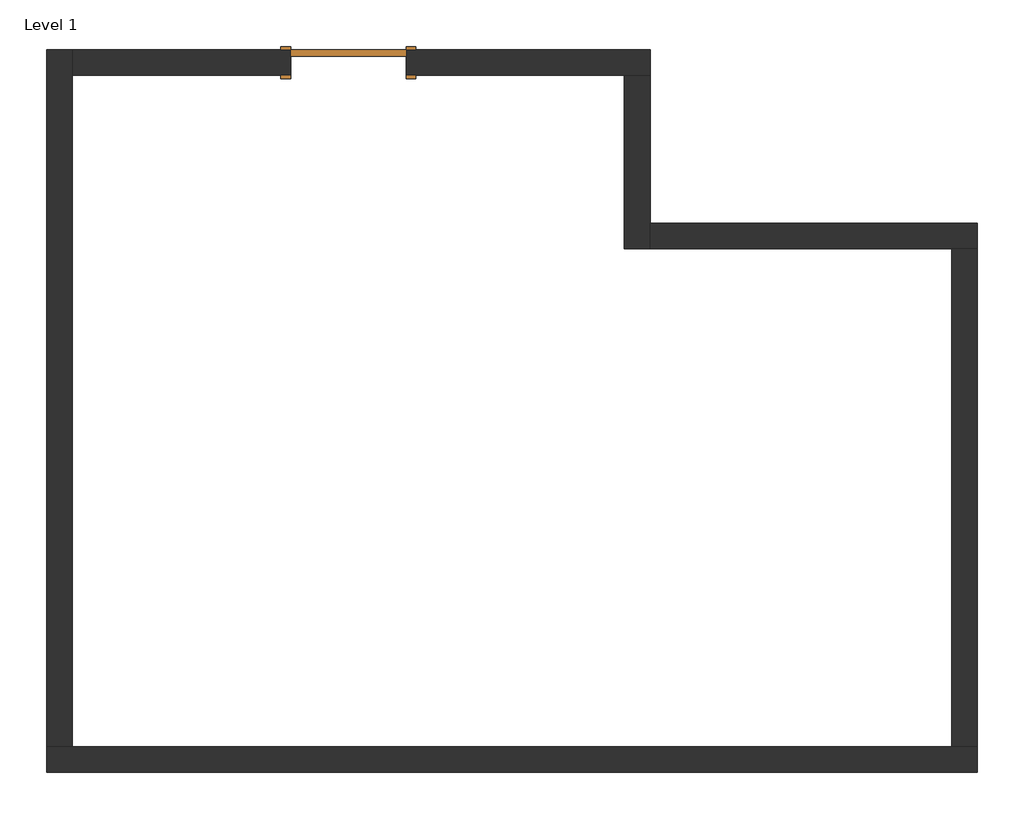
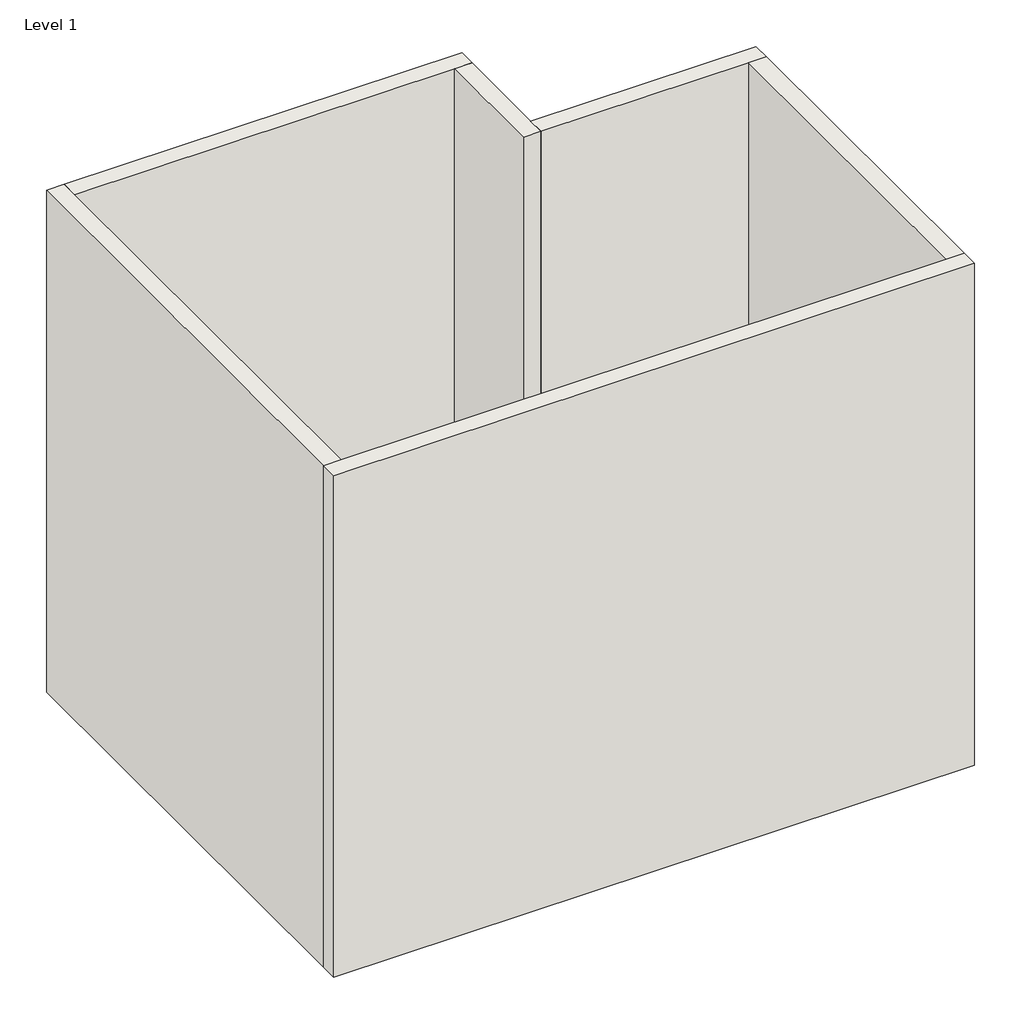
# One storey: 6 walls, 1 door.
"""IFC4 building model written with IfcOpenShell, lengths in millimetres."""

from ifc_helpers import new_model, si_unit, origin, origin_with_axes, place, context, project, spatial, polyline, outline, extrude, faceted_brep, transform, mapped, element, save
from components import door_54dd4da4

model = new_model("IFC4")

# Units and contexts
model_context = context("Model", 3, world=origin())
ifc_project = project(units=[si_unit("LENGTHUNIT", "METRE", prefix="MILLI")], contexts=[model_context])

# Site, building, storey
site = spatial("IfcSite", under=ifc_project)
building = spatial("IfcBuilding", under=site)
storey = spatial("IfcBuildingStorey", under=building, Name="Level 1", Elevation=0.0)

# Door
placement = place(None, origin())
door_shape = door_54dd4da4(model_context)
element("IfcDoor", 1, ObjectType="Single-Flush : 36\" x 84\"", at=placement, inside=storey, context=model_context, shape_type="MappedRepresentation", body=[
    mapped(door_shape, transform((-10047.3431382, 12194.1029451, 0.0), x_axis=(1.0, 0.0, 0.0), y_axis=(0.0, 1.0, 0.0), z_axis=(0.0, 0.0, 1.0))),
])

# Walls
element("IfcWall", 2, ObjectType="Generic - 8\"", at=placement, inside=storey, context=model_context, shape_type="Brep", body=[
    faceted_brep([(-12231.7431382, 6781.9300841, 0.0), (-12231.7431382, 12092.5029451, 0.0), (-12231.7431382, 12295.7029451, 0.0), (-12231.7431382, 12295.7029451, 6096.0), (-12231.7431382, 12092.5029451, 6096.0), (-12231.7431382, 6781.9300841, 6096.0), (-12434.9431382, 6781.9300841, 0.0), (-12434.9431382, 6781.9300841, 6096.0), (-12434.9431382, 12295.7029451, 6096.0), (-12434.9431382, 12295.7029451, 0.0)], [[[0, 1, 2, 3, 4, 5]], [[6, 7, 8, 9]], [[2, 1, 0, 6, 9]], [[5, 4, 3, 8, 7]], [[3, 2, 9, 8]], [[0, 5, 7, 6]]]),
])
element("IfcWall", 3, ObjectType="Generic - 8\"", at=placement, inside=storey, context=model_context, shape_type="Brep", body=[
    faceted_brep([(-9590.1431382, 12092.5029451, 2133.6), (-9590.1431382, 12092.5029451, 0.0), (-7862.9431382, 12092.5029451, 0.0), (-7659.7431382, 12092.5029451, 0.0), (-7659.7431382, 12092.5029451, 6096.0), (-7862.9431382, 12092.5029451, 6096.0), (-12231.7431382, 12092.5029451, 6096.0), (-12231.7431382, 12092.5029451, 0.0), (-10504.5431382, 12092.5029451, 0.0), (-10504.5431382, 12092.5029451, 2133.6), (-7659.7431382, 12295.7029451, 0.0), (-9590.1431382, 12295.7029451, 0.0), (-9590.1431382, 12295.7029451, 2133.6), (-10504.5431382, 12295.7029451, 2133.6), (-10504.5431382, 12295.7029451, 0.0), (-12231.7431382, 12295.7029451, 0.0), (-12231.7431382, 12295.7029451, 6096.0), (-7659.7431382, 12295.7029451, 6096.0)], [[[0, 1, 2, 3, 4, 5, 6, 7, 8, 9]], [[10, 11, 12, 13, 14, 15, 16, 17]], [[8, 7, 15, 14]], [[3, 2, 1, 11, 10]], [[6, 5, 4, 17, 16]], [[7, 6, 16, 15]], [[4, 3, 10, 17]], [[12, 11, 1, 0]], [[13, 12, 0, 9]], [[14, 13, 9, 8]]]),
])
element("IfcWall", 4, ObjectType="Generic - 8\"", at=placement, inside=storey, context=model_context, shape_type="Brep", body=[
    faceted_brep([(-7862.9431382, 12092.5029451, 0.0), (-7862.9431382, 10720.9029451, 0.0), (-7862.9431382, 10720.9029451, 6096.0), (-7862.9431382, 12092.5029451, 6096.0), (-7659.7431382, 12092.5029451, 0.0), (-7659.7431382, 12092.5029451, 6096.0), (-7659.7431382, 10924.1029451, 6096.0), (-7659.7431382, 10720.9029451, 6096.0), (-7659.7431382, 10720.9029451, 0.0), (-7659.7431382, 10924.1029451, 0.0)], [[[0, 1, 2, 3]], [[4, 5, 6, 7, 8, 9]], [[1, 0, 4, 9, 8]], [[3, 2, 7, 6, 5]], [[0, 3, 5, 4]], [[2, 1, 8, 7]]]),
])
element("IfcWall", 5, ObjectType="Generic - 8\"", at=placement, inside=storey, context=model_context, shape_type="Brep", body=[
    faceted_brep([(-7659.7431382, 10720.9029451, 0.0), (-5272.1431382, 10720.9029451, 0.0), (-5068.9431382, 10720.9029451, 0.0), (-5068.9431382, 10720.9029451, 6096.0), (-5272.1431382, 10720.9029451, 6096.0), (-7659.7431382, 10720.9029451, 6096.0), (-7659.7431382, 10924.1029451, 0.0), (-7659.7431382, 10924.1029451, 6096.0), (-5068.9431382, 10924.1029451, 6096.0), (-5068.9431382, 10924.1029451, 0.0)], [[[0, 1, 2, 3, 4, 5]], [[6, 7, 8, 9]], [[2, 1, 0, 6, 9]], [[5, 4, 3, 8, 7]], [[0, 5, 7, 6]], [[3, 2, 9, 8]]]),
])
element("IfcWall", 6, ObjectType="Generic - 8\"", at=placement, inside=storey, context=model_context, shape_type="SweptSolid", body=[
    extrude(outline(polyline([(-5272.1431382, 6781.9300841), (-5272.1431382, 10720.9029451), (-5068.9431382, 10720.9029451), (-5068.9431382, 6781.9300841), (-5272.1431382, 6781.9300841)])), origin_with_axes(), (0.0, 0.0, 1.0), 6096.0),
])
element("IfcWall", 7, ObjectType="Generic - 8\"", at=placement, inside=storey, context=model_context, shape_type="Brep", body=[
    faceted_brep([(-5068.9431382, 6781.9300841, 0.0), (-5272.1431382, 6781.9300841, 0.0), (-12231.7431382, 6781.9300841, 0.0), (-12434.9431382, 6781.9300841, 0.0), (-12434.9431382, 6781.9300841, 6096.0), (-12231.7431382, 6781.9300841, 6096.0), (-5272.1431382, 6781.9300841, 6096.0), (-5068.9431382, 6781.9300841, 6096.0), (-5068.9431382, 6578.7300841, 0.0), (-5068.9431382, 6578.7300841, 6096.0), (-12434.9431382, 6578.7300841, 6096.0), (-12434.9431382, 6578.7300841, 0.0)], [[[0, 1, 2, 3, 4, 5, 6, 7]], [[8, 9, 10, 11]], [[3, 2, 1, 0, 8, 11]], [[7, 6, 5, 4, 10, 9]], [[4, 3, 11, 10]], [[0, 7, 9, 8]]]),
])

save(model, "model.ifc")
